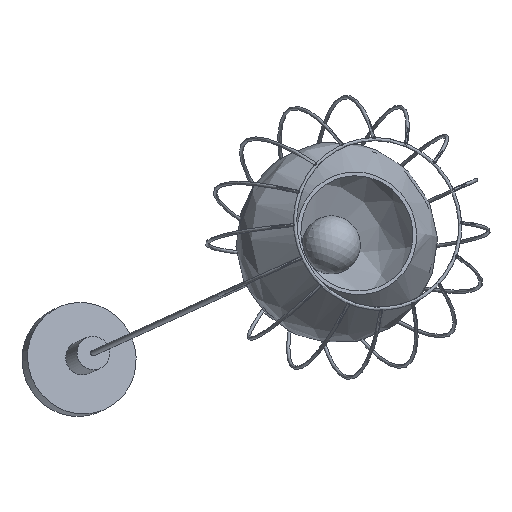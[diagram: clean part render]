
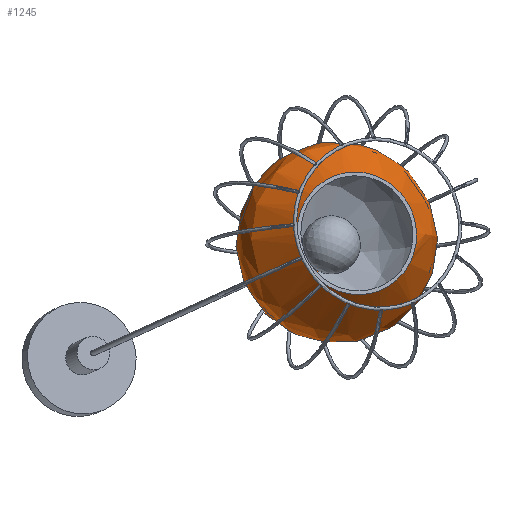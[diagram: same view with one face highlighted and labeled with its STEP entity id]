
A CAD part, isometric view. The second image highlights one B-rep face of the part: STEP entity #1245.
In plain terms, the highlighted free-form (B-spline) face has degree [2, 2] with [5, 9] control points.
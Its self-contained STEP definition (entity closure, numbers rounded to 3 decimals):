
#250=FACE_OUTER_BOUND('',#384,.T.);
#384=EDGE_LOOP('',(#1059,#1060,#1061,#1062,#1063,#1064));
#473=(
BOUNDED_CURVE()
B_SPLINE_CURVE(2,(#3541,#3542,#3543,#3544,#3545),.UNSPECIFIED.,.F.,.F.)
B_SPLINE_CURVE_WITH_KNOTS((3,2,3),(-0.918,0.309,
1.535),.UNSPECIFIED.)
CURVE()
GEOMETRIC_REPRESENTATION_ITEM()
RATIONAL_B_SPLINE_CURVE((1.,0.818,1.,0.818,1.))
REPRESENTATION_ITEM('')
);
#530=CIRCLE('',#1429,4.);
#531=CIRCLE('',#1430,4.);
#543=CIRCLE('',#1449,55.);
#544=CIRCLE('',#1450,55.);
#636=VERTEX_POINT('',#3379);
#637=VERTEX_POINT('',#3380);
#649=VERTEX_POINT('',#3462);
#650=VERTEX_POINT('',#3463);
#776=EDGE_CURVE('',#636,#637,#530,.T.);
#777=EDGE_CURVE('',#637,#636,#531,.T.);
#790=EDGE_CURVE('',#649,#650,#543,.T.);
#791=EDGE_CURVE('',#650,#649,#544,.T.);
#793=EDGE_CURVE('',#650,#637,#473,.T.);
#1059=ORIENTED_EDGE('',*,*,#790,.F.);
#1060=ORIENTED_EDGE('',*,*,#791,.F.);
#1061=ORIENTED_EDGE('',*,*,#793,.T.);
#1062=ORIENTED_EDGE('',*,*,#777,.T.);
#1063=ORIENTED_EDGE('',*,*,#776,.T.);
#1064=ORIENTED_EDGE('',*,*,#793,.F.);
#1100=(
BOUNDED_SURFACE()
B_SPLINE_SURFACE(2,2,((#3496,#3497,#3498,#3499,#3500,#3501,#3502,#3503,
#3504),(#3505,#3506,#3507,#3508,#3509,#3510,#3511,#3512,#3513),(#3514,#3515,
#3516,#3517,#3518,#3519,#3520,#3521,#3522),(#3523,#3524,#3525,#3526,#3527,
#3528,#3529,#3530,#3531),(#3532,#3533,#3534,#3535,#3536,#3537,#3538,#3539,
#3540)),.UNSPECIFIED.,.F.,.T.,.F.)
B_SPLINE_SURFACE_WITH_KNOTS((3,2,3),(3,2,2,2,3),(-1.535,-0.309,
0.918),(-3.142,-1.571,0.,1.571,
3.142),.UNSPECIFIED.)
GEOMETRIC_REPRESENTATION_ITEM()
RATIONAL_B_SPLINE_SURFACE(((1.,0.707,1.,0.707,1.,
0.707,1.,0.707,1.),(0.818,0.578,
0.818,0.578,0.818,0.578,
0.818,0.578,0.818),(1.,0.707,
1.,0.707,1.,0.707,1.,0.707,1.),(0.818,
0.578,0.818,0.578,0.818,
0.578,0.818,0.578,0.818),
(1.,0.707,1.,0.707,1.,0.707,1.,0.707,
1.)))
REPRESENTATION_ITEM('')
SURFACE()
);
#1245=ADVANCED_FACE('',(#250),#1100,.F.);
#1429=AXIS2_PLACEMENT_3D('',#3381,#1749,#1750);
#1430=AXIS2_PLACEMENT_3D('',#3382,#1751,#1752);
#1449=AXIS2_PLACEMENT_3D('',#3464,#1789,#1790);
#1450=AXIS2_PLACEMENT_3D('',#3465,#1791,#1792);
#1749=DIRECTION('center_axis',(0.,-1.,0.));
#1750=DIRECTION('ref_axis',(-1.,0.,0.));
#1751=DIRECTION('center_axis',(0.,-1.,0.));
#1752=DIRECTION('ref_axis',(-1.,0.,0.));
#1789=DIRECTION('center_axis',(0.,-1.,0.));
#1790=DIRECTION('ref_axis',(1.,0.,0.));
#1791=DIRECTION('center_axis',(0.,-1.,0.));
#1792=DIRECTION('ref_axis',(1.,0.,0.));
#3379=CARTESIAN_POINT('',(4.,159.947,0.));
#3380=CARTESIAN_POINT('',(0.,159.947,4.));
#3381=CARTESIAN_POINT('Origin',(0.,159.947,0.));
#3382=CARTESIAN_POINT('Origin',(0.,159.947,0.));
#3462=CARTESIAN_POINT('',(55.,0.,0.));
#3463=CARTESIAN_POINT('',(0.,0.,55.));
#3464=CARTESIAN_POINT('Origin',(0.,0.,0.));
#3465=CARTESIAN_POINT('Origin',(0.,0.,0.));
#3496=CARTESIAN_POINT('Ctrl Pts',(0.,159.947,4.));
#3497=CARTESIAN_POINT('Ctrl Pts',(-4.,159.947,4.));
#3498=CARTESIAN_POINT('Ctrl Pts',(-4.,159.947,0.));
#3499=CARTESIAN_POINT('Ctrl Pts',(-4.,159.947,-4.));
#3500=CARTESIAN_POINT('Ctrl Pts',(0.,159.947,-4.));
#3501=CARTESIAN_POINT('Ctrl Pts',(4.,159.947,-4.));
#3502=CARTESIAN_POINT('Ctrl Pts',(4.,159.947,0.));
#3503=CARTESIAN_POINT('Ctrl Pts',(4.,159.947,4.));
#3504=CARTESIAN_POINT('Ctrl Pts',(0.,159.947,4.));
#3505=CARTESIAN_POINT('Ctrl Pts',(0.,157.715,66.72));
#3506=CARTESIAN_POINT('Ctrl Pts',(-66.72,157.715,66.72));
#3507=CARTESIAN_POINT('Ctrl Pts',(-66.72,157.715,0.));
#3508=CARTESIAN_POINT('Ctrl Pts',(-66.72,157.715,-66.72));
#3509=CARTESIAN_POINT('Ctrl Pts',(0.,157.715,-66.72));
#3510=CARTESIAN_POINT('Ctrl Pts',(66.72,157.715,-66.72));
#3511=CARTESIAN_POINT('Ctrl Pts',(66.72,157.715,0.));
#3512=CARTESIAN_POINT('Ctrl Pts',(66.72,157.715,66.72));
#3513=CARTESIAN_POINT('Ctrl Pts',(0.,157.715,66.72));
#3514=CARTESIAN_POINT('Ctrl Pts',(0.,97.921,85.786));
#3515=CARTESIAN_POINT('Ctrl Pts',(-85.786,97.921,85.786));
#3516=CARTESIAN_POINT('Ctrl Pts',(-85.786,97.921,0.));
#3517=CARTESIAN_POINT('Ctrl Pts',(-85.786,97.921,-85.786));
#3518=CARTESIAN_POINT('Ctrl Pts',(0.,97.921,-85.786));
#3519=CARTESIAN_POINT('Ctrl Pts',(85.786,97.921,-85.786));
#3520=CARTESIAN_POINT('Ctrl Pts',(85.786,97.921,0.));
#3521=CARTESIAN_POINT('Ctrl Pts',(85.786,97.921,85.786));
#3522=CARTESIAN_POINT('Ctrl Pts',(0.,97.921,85.786));
#3523=CARTESIAN_POINT('Ctrl Pts',(0.,38.127,104.851));
#3524=CARTESIAN_POINT('Ctrl Pts',(-104.851,38.127,104.851));
#3525=CARTESIAN_POINT('Ctrl Pts',(-104.851,38.127,0.));
#3526=CARTESIAN_POINT('Ctrl Pts',(-104.851,38.127,-104.851));
#3527=CARTESIAN_POINT('Ctrl Pts',(0.,38.127,-104.851));
#3528=CARTESIAN_POINT('Ctrl Pts',(104.851,38.127,-104.851));
#3529=CARTESIAN_POINT('Ctrl Pts',(104.851,38.127,0.));
#3530=CARTESIAN_POINT('Ctrl Pts',(104.851,38.127,104.851));
#3531=CARTESIAN_POINT('Ctrl Pts',(0.,38.127,104.851));
#3532=CARTESIAN_POINT('Ctrl Pts',(0.,0.,55.));
#3533=CARTESIAN_POINT('Ctrl Pts',(-55.,0.,55.));
#3534=CARTESIAN_POINT('Ctrl Pts',(-55.,0.,0.));
#3535=CARTESIAN_POINT('Ctrl Pts',(-55.,0.,-55.));
#3536=CARTESIAN_POINT('Ctrl Pts',(0.,0.,-55.));
#3537=CARTESIAN_POINT('Ctrl Pts',(55.,0.,-55.));
#3538=CARTESIAN_POINT('Ctrl Pts',(55.,0.,0.));
#3539=CARTESIAN_POINT('Ctrl Pts',(55.,0.,55.));
#3540=CARTESIAN_POINT('Ctrl Pts',(0.,0.,55.));
#3541=CARTESIAN_POINT('Ctrl Pts',(0.,0.,55.));
#3542=CARTESIAN_POINT('Ctrl Pts',(0.,38.127,104.851));
#3543=CARTESIAN_POINT('Ctrl Pts',(0.,97.921,85.786));
#3544=CARTESIAN_POINT('Ctrl Pts',(0.,157.715,66.72));
#3545=CARTESIAN_POINT('Ctrl Pts',(0.,159.947,4.));
